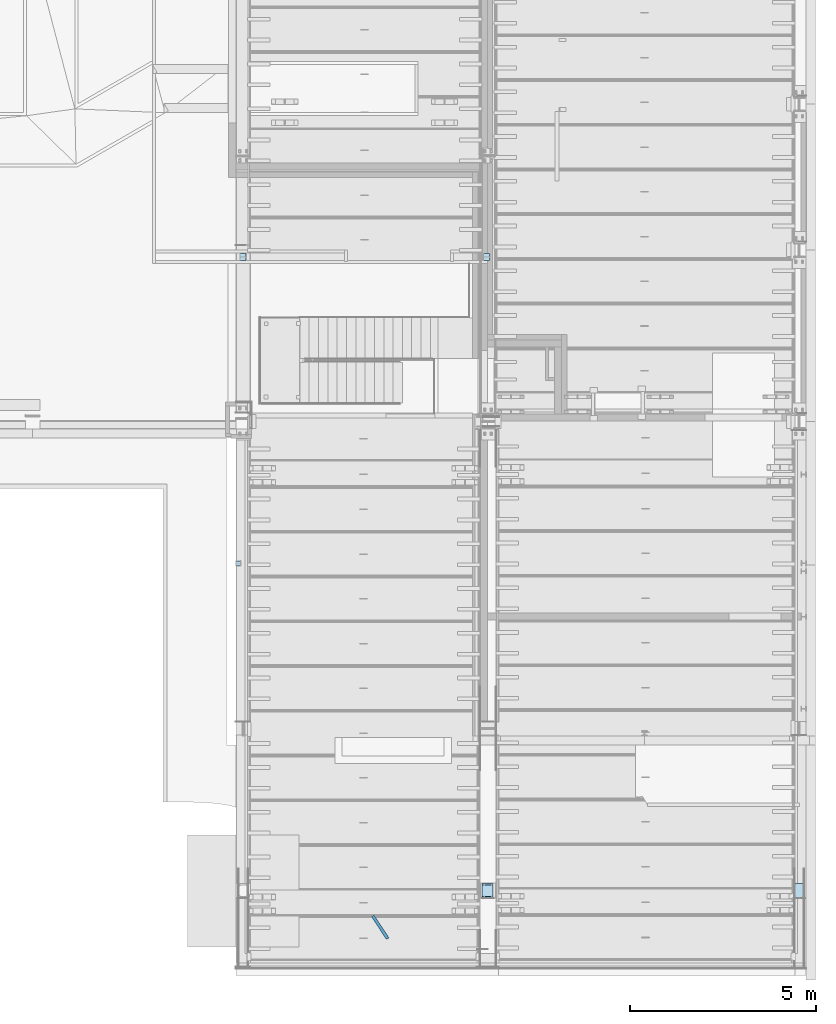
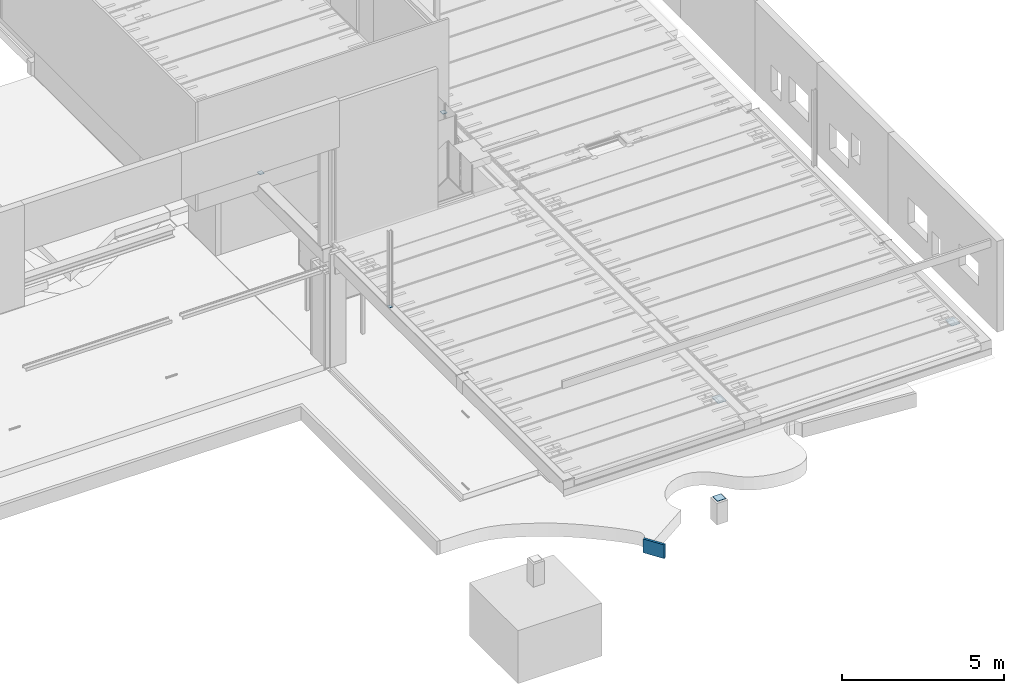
# One storey, part 66 of 230: 6 plates, 1 slab.
"""IFC4X3_ADD2 building model written with IfcOpenShell, lengths in millimetres."""

from ifc_helpers import new_model, si_unit, direction, frame, frame_2d, origin_with_axes, place, context, subcontext, project, spatial, polyline, rectangle, outline, extrude, material, type_object, element, save


model = new_model("IFC4X3_ADD2")

# Units and contexts
model_context = context("Model", 3, precision=1e-05, world=origin_with_axes(), true_north=direction((0.0, 1.0)))
body_context = subcontext(model_context, "Body", "Model", "MODEL_VIEW")
ifc_project = project(units=[si_unit("LENGTHUNIT", "METRE", prefix="MILLI"), si_unit("AREAUNIT", "SQUARE_METRE"), si_unit("VOLUMEUNIT", "CUBIC_METRE"), si_unit("PLANEANGLEUNIT", "RADIAN"), si_unit("TIMEUNIT", "SECOND"), si_unit("MASSUNIT", "GRAM")], contexts=[model_context])

# Site, building, storey
site_placement = place(None, origin_with_axes())
site = spatial("IfcSite", under=ifc_project, at=site_placement, Name="Site", CompositionType="ELEMENT")
building_placement = place(site_placement, origin_with_axes())
building = spatial("IfcBuilding", under=site, at=building_placement, Name="IFC Building Story")
storey_placement = place(building_placement, origin_with_axes())
storey = spatial("IfcBuildingStorey", under=building, at=storey_placement, Name="ETAGE 00 (0)", Elevation=0.0)

# Slab
ifc_material_1 = material(Name="21_Bordure_BetonPrefabrique_500")
slab_type = type_object("IfcSlabType", Name="Sol:BS_13_FL_BTbordure en beton", PredefinedType="FLOOR", material=ifc_material_1)
slab_placement = place(storey_placement, frame((36839.40824783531, -13076.64596509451, -520.0), z_axis=(0.0, 0.0, 1.0), x_axis=(0.5484884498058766, -0.8361581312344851, 0.0)))
element("IfcSlab", 1, at=slab_placement, inside=storey, type_object=slab_type, Name="Sol:BS_13_FL_BTbordure en beton", ObjectType="Sol:BS_13_FL_BTbordure en beton", PredefinedType="FLOOR", context=body_context, shape_type="SweptSolid", body=[
    extrude(outline(polyline([(-187.6821838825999, 36.98689326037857), (548.4363055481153, 36.98689326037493), (548.4235780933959, -42.87348929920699), (-180.8677369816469, -42.87426966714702), (-179.6541496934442, -24.20720652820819), (-180.5057694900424, -3.499175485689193), (-182.7736793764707, 13.15998009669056), (-185.3763642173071, 26.32037436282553), (-187.6821838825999, 36.98689326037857)])), frame((187.6821838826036, 42.87426966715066, 0.0), z_axis=(0.0, 0.0, 1.0), x_axis=(1.0, 0.0, 0.0)), (0.0, 0.0, 1.0), 520.0),
])

# Plates
ifc_material_2 = material(Name="Acier - B 500 B")
plate_1_placement = place(storey_placement, frame((33206.189348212, -3536.25100932, 4280.0), z_axis=(0.0, 0.0, 1.0), x_axis=(0.0, -1.0, 0.0)))
element("IfcPlate", 2, at=plate_1_placement, inside=storey, material=ifc_material_2, Name="-", ObjectType="Aucun", context=body_context, shape_type="SweptSolid", body=[
    extrude(rectangle(XDim=140.0, YDim=123.0, at=frame_2d((0.0, 5.95523630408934e-12), x_axis=(-1.0, 0.0))), frame((70.0, 61.5, 0.0), z_axis=(0.0, 0.0, 1.0), x_axis=(1.0, 0.0, 0.0)), (0.0, 0.0, 1.0), 10.0),
])
for number, where, z_axis, x_axis in (
    (3, (39850.689348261, 4698.839653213, 4300.0), (0.0, 0.0, 1.0), (0.0, -1.0, 0.0)),
    (4, (33320.689348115, 4698.839653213, 4300.0), (0.0, 0.0, 1.0), (0.0, -1.0, 0.0)),
):
    element("IfcPlate", number, at=place(storey_placement, frame(where, z_axis=z_axis, x_axis=x_axis)), inside=storey, material=ifc_material_2, Name="-", ObjectType="Aucun", context=body_context, shape_type="SweptSolid", body=[
        extrude(rectangle(XDim=180.0, YDim=161.0, at=frame_2d((0.0, 5.95523630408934e-12), x_axis=(-1.0, 0.0))), frame((90.0, 80.5, 0.0), z_axis=(0.0, 0.0, 1.0), x_axis=(1.0, 0.0, 0.0)), (0.0, 0.0, 1.0), 15.0),
    ])
plate_2_placement = place(storey_placement, frame((48146.689348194, -12188.486405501, 3765.0), z_axis=(0.0, 0.0, 1.0), x_axis=(0.0, -1.0, 0.0)))
element("IfcPlate", 5, at=plate_2_placement, inside=storey, material=ifc_material_2, Name="-", ObjectType="Aucun", context=body_context, shape_type="SweptSolid", body=[
    extrude(rectangle(XDim=400.0, YDim=300.0, at=frame_2d((0.0, 5.95523630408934e-12), x_axis=(-1.0, 0.0))), frame((200.0, 150.0, 0.0), z_axis=(0.0, 0.0, 1.0), x_axis=(1.0, 0.0, 0.0)), (0.0, 0.0, 1.0), 15.0),
])
plate_3_placement = place(storey_placement, frame((39806.689348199, -12538.486405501, 40.0), z_axis=(0.0, 0.0, 1.0), x_axis=(1.0, 0.0, 0.0)))
element("IfcPlate", 6, at=plate_3_placement, inside=storey, material=ifc_material_2, Name="-", ObjectType="Aucun", context=body_context, shape_type="SweptSolid", body=[
    extrude(rectangle(XDim=300.0, YDim=300.0, at=frame_2d((0.0, 5.95523630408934e-12), x_axis=(1.0, 0.0))), frame((150.0, 150.0, 0.0), z_axis=(0.0, 0.0, 1.0), x_axis=(1.0, 0.0, 0.0)), (0.0, 0.0, 1.0), 15.0),
])
plate_4_placement = place(storey_placement, frame((39806.689348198, -12188.486405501, 3765.0), z_axis=(0.0, 0.0, 1.0), x_axis=(0.0, -1.0, 0.0)))
element("IfcPlate", 7, at=plate_4_placement, inside=storey, material=ifc_material_2, Name="-", ObjectType="Aucun", context=body_context, shape_type="SweptSolid", body=[
    extrude(rectangle(XDim=400.0, YDim=300.0, at=frame_2d((0.0, 5.95523630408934e-12), x_axis=(-1.0, 0.0))), frame((200.0, 150.0, 0.0), z_axis=(0.0, 0.0, 1.0), x_axis=(1.0, 0.0, 0.0)), (0.0, 0.0, 1.0), 15.0),
])

save(model, "model.ifc")
